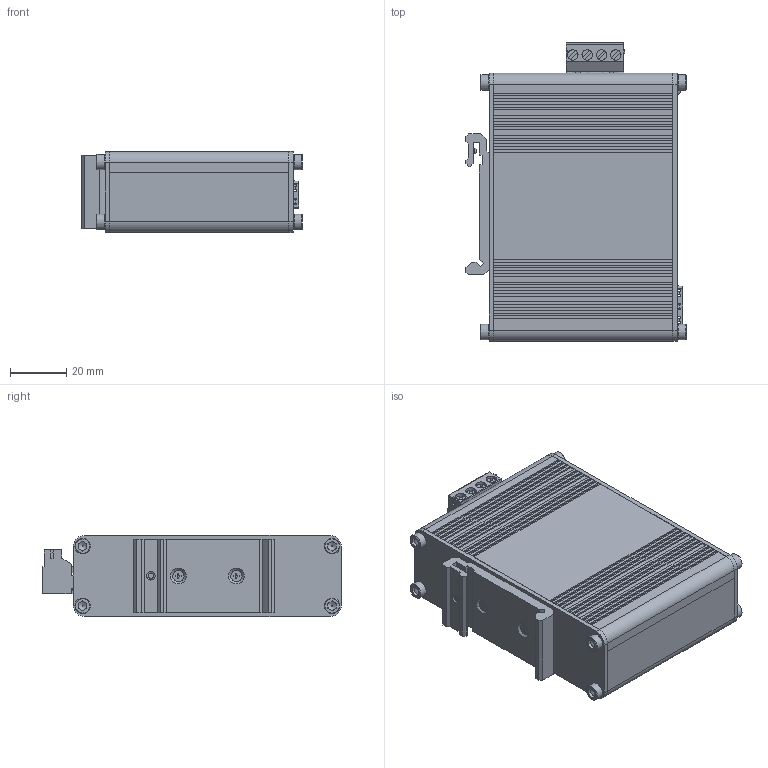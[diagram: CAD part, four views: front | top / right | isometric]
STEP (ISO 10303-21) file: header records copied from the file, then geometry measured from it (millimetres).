
FILE_DESCRIPTION(('FreeCAD Model'),'2;1');
FILE_NAME('Open CASCADE Shape Model','2023-03-13T10:52:46',(''),(''), 'Open CASCADE STEP processor 7.6','FreeCAD','Unknown');
FILE_SCHEMA(('AUTOMOTIVE_DESIGN { 1 0 10303 214 1 1 1 1 }'));
Length unit declared in the file: millimetre
Products named in the file (28): EX_62020PoE_SFP_3D; 62020PoE_case_down (Solid); 62020PoE__case_back (Solid); Schraube_Inbus_M3x10 (Solid)#001; Schraube_Inbus_M3x10 (Solid)#002; Schraube_Inbus_M3x10 (Solid)#003; Schraube_Inbus_M3x10 (Solid)#004; Case_up_62020PoE_ (Solid); Schraube_Inbus_M3x10 (Solid)#005; Schraube_Inbus_M3x10 (Solid)#006; Schraube_Inbus_M3x10 (Solid)#007; Schraube_Inbus_M3x10 (Solid)#008; Schraube M4/10#001; Schraube M4/10#002; Rackmount-Kit (Solid); 62020PoE_pcb; C-2170359-1; SOLID; SOLID001; SOLID002; 796644-4; sfpc-pc; C-282807-4; 1801.1131; 1801_5007_gehaeuse; led_l7003_abgewinkelt; 1801.1031_led; Case_front_EX-62020PoE-SFP (Solid)
Assembly tree (27 placements, depth 3):
  EX_62020PoE_SFP_3D
    62020PoE_case_down (Solid)
    62020PoE__case_back (Solid)
    Schraube_Inbus_M3x10 (Solid)#001
    Schraube_Inbus_M3x10 (Solid)#002
    Schraube_Inbus_M3x10 (Solid)#003
    Schraube_Inbus_M3x10 (Solid)#004
    Case_up_62020PoE_ (Solid)
    Schraube_Inbus_M3x10 (Solid)#005
    Schraube_Inbus_M3x10 (Solid)#006
    Schraube_Inbus_M3x10 (Solid)#007
    Schraube_Inbus_M3x10 (Solid)#008
    Schraube M4/10#001
    Schraube M4/10#002
    Rackmount-Kit (Solid)
    62020PoE_pcb
    C-2170359-1
      SOLID
      SOLID001
      SOLID002
    796644-4
    sfpc-pc
    C-282807-4
    1801.1131
      1801_5007_gehaeuse
      led_l7003_abgewinkelt
      1801.1031_led
    Case_front_EX-62020PoE-SFP (Solid)
Bounding box: 78.05 x 105.9 x 28.75 mm (x, y, z)
Volume: 69294.6 mm3; surface area: 79942.2 mm2
Topology: 25 solids, 25 shells, 3313 faces, 9127 edges, 5964 vertices
Faces by surface type: plane 2471, cylinder 782, cone 56, torus 2, sphere 2
Full cylindrical faces by diameter (mm): 0.9 x1, 2 x2, 2.6 x22, 3 x2, 3.4 x2, 3.5 x2, 4 x2, 5.5 x8
Entity records: 228700 total; most frequent: CARTESIAN_POINT 47536, DIRECTION 33055, LINE 22297, VECTOR 22297, ORIENTED_EDGE 18250, PCURVE 18250, DEFINITIONAL_REPRESENTATION 18250, EDGE_CURVE 9125
